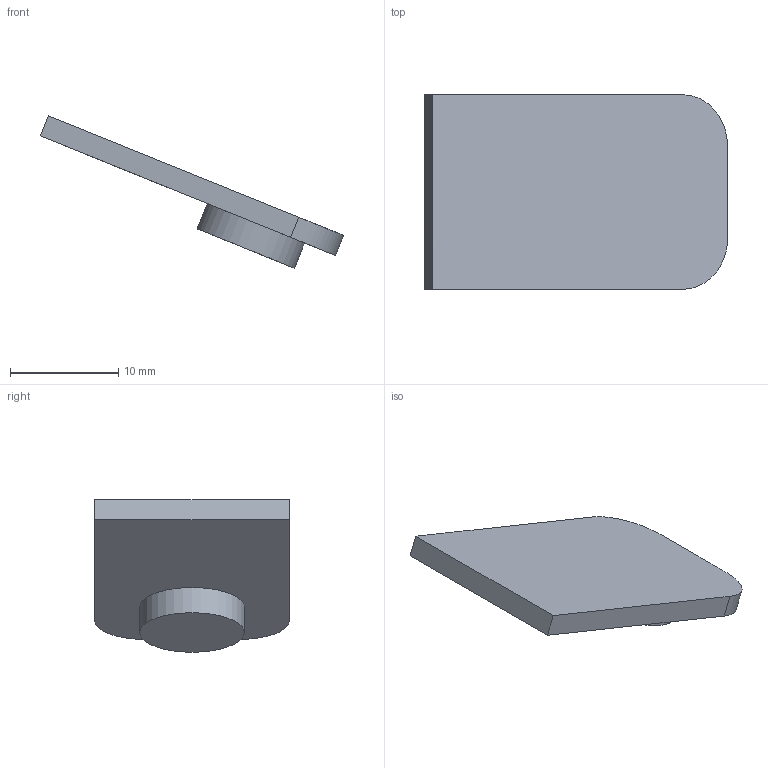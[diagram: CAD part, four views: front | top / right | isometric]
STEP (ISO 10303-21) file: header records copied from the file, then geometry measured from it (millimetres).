
FILE_DESCRIPTION(/* description */ (''),/* implementation_level */ '2;1');
FILE_NAME(/* name */ 'D:/Pew Pews/FGC-9_MkII_Stingray_Edition/Stingray Edition/.step files/4 - Magazine/Locking Tab.step',/* time_stamp */ '2022-05-12T10:52:50-06:00',/* author */ (''),/* organization */ (''),/* preprocessor_version */ 'ST-DEVELOPER v18.1',/* originating_system */ 'Autodesk Translation Framework v10.10.0.1391',/* authorisation */ '');
FILE_SCHEMA (('AUTOMOTIVE_DESIGN { 1 0 10303 214 3 1 1 }'));
Length unit declared in the file: millimetre
Products named in the file (1): locking tab
Bounding box: 28.02 x 17.98 x 14.09 mm (x, y, z)
Volume: 1226.3 mm3; surface area: 1298.6 mm2
Topology: 1 solids, 1 shells, 10 faces, 21 edges, 14 vertices
Faces by surface type: plane 7, bspline 2, cylinder 1
Full cylindrical faces by diameter (mm): 9.7 x1
Entity records: 396 total; most frequent: CARTESIAN_POINT 156, ORIENTED_EDGE 42, DIRECTION 37, EDGE_CURVE 21, LINE 15, VECTOR 15, VERTEX_POINT 14, EDGE_LOOP 11
